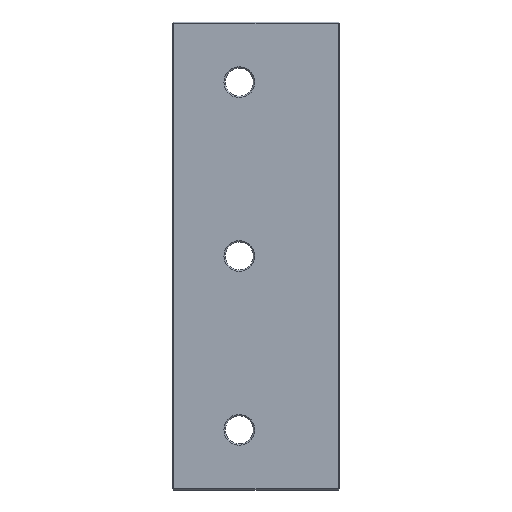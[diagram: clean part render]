
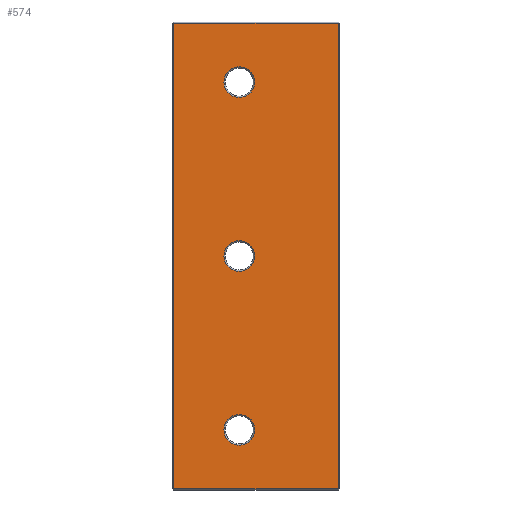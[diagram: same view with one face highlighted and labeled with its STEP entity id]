
A CAD part, front view. The second image highlights one B-rep face of the part: STEP entity #574.
In plain terms, the highlighted planar face has unit normal (0, -1, 0).
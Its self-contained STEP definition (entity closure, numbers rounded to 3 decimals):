
#17=FACE_BOUND('',#83,.T.);
#18=FACE_BOUND('',#84,.T.);
#19=FACE_BOUND('',#85,.T.);
#23=CIRCLE('',#630,11.5);
#25=CIRCLE('',#633,11.5);
#26=CIRCLE('',#634,11.5);
#46=FACE_OUTER_BOUND('',#82,.T.);
#82=EDGE_LOOP('',(#366,#367,#368,#369));
#83=EDGE_LOOP('',(#370));
#84=EDGE_LOOP('',(#371));
#85=EDGE_LOOP('',(#372));
#127=LINE('',#862,#187);
#128=LINE('',#864,#188);
#129=LINE('',#866,#189);
#130=LINE('',#867,#190);
#187=VECTOR('',#696,10.);
#188=VECTOR('',#697,10.);
#189=VECTOR('',#698,10.);
#190=VECTOR('',#699,10.);
#246=VERTEX_POINT('',#854);
#248=VERTEX_POINT('',#860);
#249=VERTEX_POINT('',#861);
#250=VERTEX_POINT('',#863);
#251=VERTEX_POINT('',#865);
#252=VERTEX_POINT('',#868);
#253=VERTEX_POINT('',#870);
#287=EDGE_CURVE('',#246,#246,#23,.T.);
#290=EDGE_CURVE('',#248,#249,#127,.T.);
#291=EDGE_CURVE('',#250,#248,#128,.T.);
#292=EDGE_CURVE('',#251,#250,#129,.T.);
#293=EDGE_CURVE('',#249,#251,#130,.T.);
#294=EDGE_CURVE('',#252,#252,#25,.T.);
#295=EDGE_CURVE('',#253,#253,#26,.T.);
#366=ORIENTED_EDGE('',*,*,#290,.F.);
#367=ORIENTED_EDGE('',*,*,#291,.F.);
#368=ORIENTED_EDGE('',*,*,#292,.F.);
#369=ORIENTED_EDGE('',*,*,#293,.F.);
#370=ORIENTED_EDGE('',*,*,#294,.F.);
#371=ORIENTED_EDGE('',*,*,#295,.F.);
#372=ORIENTED_EDGE('',*,*,#287,.F.);
#509=PLANE('',#632);
#574=ADVANCED_FACE('',(#46,#17,#18,#19),#509,.F.);
#630=AXIS2_PLACEMENT_3D('',#855,#689,#690);
#632=AXIS2_PLACEMENT_3D('',#859,#694,#695);
#633=AXIS2_PLACEMENT_3D('',#869,#700,#701);
#634=AXIS2_PLACEMENT_3D('',#871,#702,#703);
#689=DIRECTION('center_axis',(0.,-1.,0.));
#690=DIRECTION('ref_axis',(1.,0.,0.));
#694=DIRECTION('center_axis',(0.,1.,0.));
#695=DIRECTION('ref_axis',(0.,0.,1.));
#696=DIRECTION('',(0.,0.,-1.));
#697=DIRECTION('',(1.,0.,0.));
#698=DIRECTION('',(0.,0.,1.));
#699=DIRECTION('',(-1.,0.,0.));
#700=DIRECTION('center_axis',(0.,-1.,0.));
#701=DIRECTION('ref_axis',(1.,0.,0.));
#702=DIRECTION('center_axis',(0.,-1.,0.));
#703=DIRECTION('ref_axis',(1.,0.,0.));
#854=CARTESIAN_POINT('',(38.5,0.,45.));
#855=CARTESIAN_POINT('Origin',(50.,0.,45.));
#859=CARTESIAN_POINT('Origin',(62.5,0.,175.));
#860=CARTESIAN_POINT('',(124.,0.,349.));
#861=CARTESIAN_POINT('',(124.,0.,1.));
#862=CARTESIAN_POINT('',(124.,0.,262.5));
#863=CARTESIAN_POINT('',(1.,0.,349.));
#864=CARTESIAN_POINT('',(31.25,0.,349.));
#865=CARTESIAN_POINT('',(1.,0.,1.));
#866=CARTESIAN_POINT('',(1.,0.,87.5));
#867=CARTESIAN_POINT('',(93.75,0.,1.));
#868=CARTESIAN_POINT('',(38.5,0.,175.));
#869=CARTESIAN_POINT('Origin',(50.,0.,175.));
#870=CARTESIAN_POINT('',(38.5,0.,305.));
#871=CARTESIAN_POINT('Origin',(50.,0.,305.));
